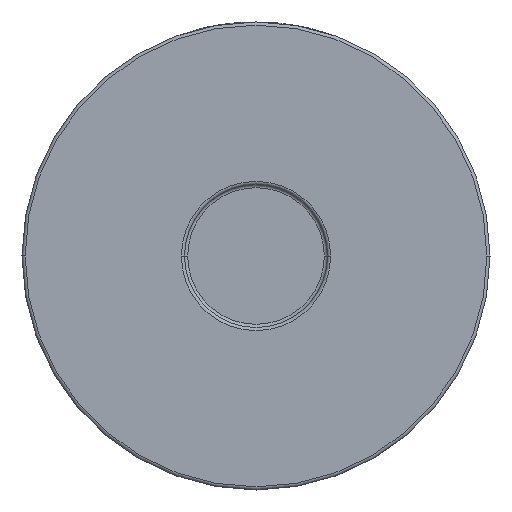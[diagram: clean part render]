
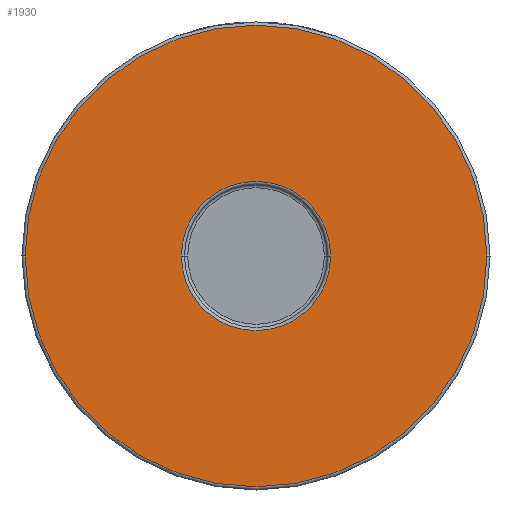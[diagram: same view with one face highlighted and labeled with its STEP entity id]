
A CAD part, front view. The second image highlights one B-rep face of the part: STEP entity #1930.
In plain terms, the highlighted planar face has unit normal (0, -1, 0).
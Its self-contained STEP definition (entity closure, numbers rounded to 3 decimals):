
#55 = FACE_BOUND ( 'NONE', #3344, .T. ) ;
#124 = DIRECTION ( 'NONE',  ( 1., 0., 0. ) ) ;
#232 = EDGE_CURVE ( 'NONE', #2235, #1979, #4397, .T. ) ;
#319 = DIRECTION ( 'NONE',  ( 1., 0., 0. ) ) ;
#563 = DIRECTION ( 'NONE',  ( 0., -1., 0. ) ) ;
#851 = DIRECTION ( 'NONE',  ( 1., 0., 0. ) ) ;
#956 = AXIS2_PLACEMENT_3D ( 'NONE', #1477, #3237, #1057 ) ;
#1057 = DIRECTION ( 'NONE',  ( 1., 0., 0. ) ) ;
#1108 = ORIENTED_EDGE ( 'NONE', *, *, #2020, .T. ) ;
#1274 = DIRECTION ( 'NONE',  ( 0., 1., 0. ) ) ;
#1363 = ORIENTED_EDGE ( 'NONE', *, *, #3572, .T. ) ;
#1455 = VERTEX_POINT ( 'NONE', #2685 ) ;
#1477 = CARTESIAN_POINT ( 'NONE',  ( 74., -31., 0. ) ) ;
#1614 = AXIS2_PLACEMENT_3D ( 'NONE', #3629, #3716, #124 ) ;
#1800 = FACE_OUTER_BOUND ( 'NONE', #3289, .T. ) ;
#1930 = ADVANCED_FACE ( 'NONE', ( #55, #1800 ), #3214, .T. ) ;
#1979 = VERTEX_POINT ( 'NONE', #3171 ) ;
#2020 = EDGE_CURVE ( 'NONE', #3665, #1455, #3911, .T. ) ;
#2039 = AXIS2_PLACEMENT_3D ( 'NONE', #4423, #1274, #851 ) ;
#2235 = VERTEX_POINT ( 'NONE', #2423 ) ;
#2257 = DIRECTION ( 'NONE',  ( 1., 0., 0. ) ) ;
#2262 = CIRCLE ( 'NONE', #2039, 23.6 ) ;
#2275 = CIRCLE ( 'NONE', #3824, 73. ) ;
#2423 = CARTESIAN_POINT ( 'NONE',  ( 73., -31., 0. ) ) ;
#2474 = EDGE_CURVE ( 'NONE', #1455, #3665, #2262, .T. ) ;
#2672 = ORIENTED_EDGE ( 'NONE', *, *, #2474, .T. ) ;
#2685 = CARTESIAN_POINT ( 'NONE',  ( -23.6, -31., 0. ) ) ;
#2784 = DIRECTION ( 'NONE',  ( 0., -1., 0. ) ) ;
#3022 = CARTESIAN_POINT ( 'NONE',  ( 0., -31., 0. ) ) ;
#3171 = CARTESIAN_POINT ( 'NONE',  ( -73., -31., 0. ) ) ;
#3214 = PLANE ( 'NONE',  #956 ) ;
#3237 = DIRECTION ( 'NONE',  ( 0., -1., 0. ) ) ;
#3289 = EDGE_LOOP ( 'NONE', ( #4082, #1363 ) ) ;
#3344 = EDGE_LOOP ( 'NONE', ( #1108, #2672 ) ) ;
#3572 = EDGE_CURVE ( 'NONE', #1979, #2235, #2275, .T. ) ;
#3590 = CARTESIAN_POINT ( 'NONE',  ( 23.6, -31., 0. ) ) ;
#3629 = CARTESIAN_POINT ( 'NONE',  ( 0., -31., 0. ) ) ;
#3665 = VERTEX_POINT ( 'NONE', #3590 ) ;
#3716 = DIRECTION ( 'NONE',  ( 0., 1., 0. ) ) ;
#3807 = AXIS2_PLACEMENT_3D ( 'NONE', #3022, #563, #2257 ) ;
#3824 = AXIS2_PLACEMENT_3D ( 'NONE', #4193, #2784, #319 ) ;
#3911 = CIRCLE ( 'NONE', #1614, 23.6 ) ;
#4082 = ORIENTED_EDGE ( 'NONE', *, *, #232, .T. ) ;
#4193 = CARTESIAN_POINT ( 'NONE',  ( 0., -31., 0. ) ) ;
#4397 = CIRCLE ( 'NONE', #3807, 73. ) ;
#4423 = CARTESIAN_POINT ( 'NONE',  ( 0., -31., 0. ) ) ;
